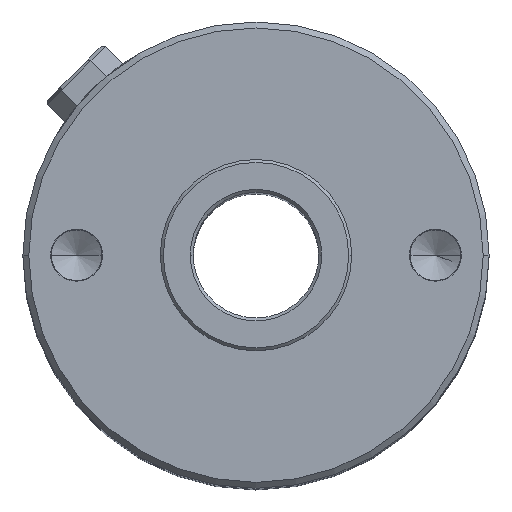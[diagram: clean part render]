
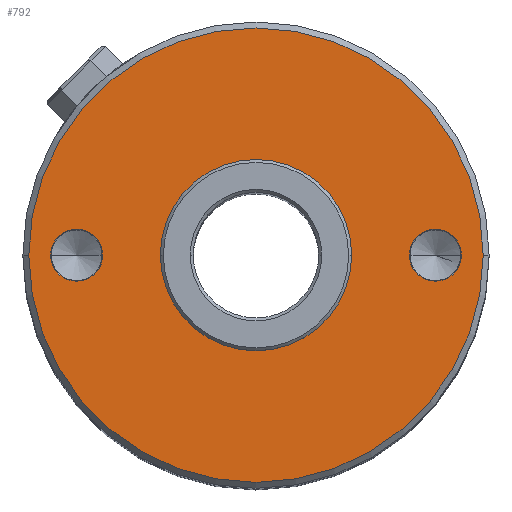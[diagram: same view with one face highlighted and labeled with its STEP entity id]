
A CAD part, top view. The second image highlights one B-rep face of the part: STEP entity #792.
In plain terms, the highlighted planar face has unit normal (0, 0, 1).
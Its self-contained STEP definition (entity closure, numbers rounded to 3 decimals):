
#16 = DIRECTION ( 'NONE',  ( 1., 0., 0. ) ) ;
#54 = CARTESIAN_POINT ( 'NONE',  ( -25.65, 0., 160. ) ) ;
#108 = DIRECTION ( 'NONE',  ( 1., 0., 0. ) ) ;
#124 = VERTEX_POINT ( 'NONE', #606 ) ;
#135 = VERTEX_POINT ( 'NONE', #54 ) ;
#142 = AXIS2_PLACEMENT_3D ( 'NONE', #1070, #2051, #898 ) ;
#146 = DIRECTION ( 'NONE',  ( 1., 0., 0. ) ) ;
#147 = VERTEX_POINT ( 'NONE', #687 ) ;
#148 = CIRCLE ( 'NONE', #142, 4.35 ) ;
#149 = CARTESIAN_POINT ( 'NONE',  ( -34.35, 0., 160. ) ) ;
#192 = DIRECTION ( 'NONE',  ( 0., 0., 1. ) ) ;
#209 = EDGE_CURVE ( 'NONE', #135, #2004, #1045, .T. ) ;
#223 = FACE_BOUND ( 'NONE', #1602, .T. ) ;
#306 = DIRECTION ( 'NONE',  ( 0., 0., -1. ) ) ;
#365 = CIRCLE ( 'NONE', #1212, 16. ) ;
#393 = VERTEX_POINT ( 'NONE', #1345 ) ;
#418 = EDGE_LOOP ( 'NONE', ( #1976, #506 ) ) ;
#461 = AXIS2_PLACEMENT_3D ( 'NONE', #945, #1134, #908 ) ;
#477 = DIRECTION ( 'NONE',  ( 0., 0., 1. ) ) ;
#479 = CIRCLE ( 'NONE', #605, 16. ) ;
#506 = ORIENTED_EDGE ( 'NONE', *, *, #1792, .T. ) ;
#557 = AXIS2_PLACEMENT_3D ( 'NONE', #956, #1940, #1292 ) ;
#564 = CARTESIAN_POINT ( 'NONE',  ( 0., 0., 160. ) ) ;
#605 = AXIS2_PLACEMENT_3D ( 'NONE', #564, #1545, #108 ) ;
#606 = CARTESIAN_POINT ( 'NONE',  ( 38., 0., 160. ) ) ;
#645 = DIRECTION ( 'NONE',  ( 1., 0., 0. ) ) ;
#687 = CARTESIAN_POINT ( 'NONE',  ( 16., 0., 160. ) ) ;
#701 = CIRCLE ( 'NONE', #557, 4.35 ) ;
#706 = CARTESIAN_POINT ( 'NONE',  ( -16., 0., 160. ) ) ;
#745 = EDGE_CURVE ( 'NONE', #393, #124, #1457, .T. ) ;
#759 = CARTESIAN_POINT ( 'NONE',  ( 0., 0., 160. ) ) ;
#788 = CIRCLE ( 'NONE', #1162, 4.35 ) ;
#792 = ADVANCED_FACE ( 'NONE', ( #2066, #223, #1068, #1598 ), #1496, .T. ) ;
#898 = DIRECTION ( 'NONE',  ( 1., 0., 0. ) ) ;
#907 = VERTEX_POINT ( 'NONE', #706 ) ;
#908 = DIRECTION ( 'NONE',  ( 1., 0., 0. ) ) ;
#909 = ORIENTED_EDGE ( 'NONE', *, *, #209, .T. ) ;
#945 = CARTESIAN_POINT ( 'NONE',  ( 0., 0., 160. ) ) ;
#956 = CARTESIAN_POINT ( 'NONE',  ( -30., 0., 160. ) ) ;
#969 = EDGE_LOOP ( 'NONE', ( #1252, #1618 ) ) ;
#996 = CARTESIAN_POINT ( 'NONE',  ( 0., 0., 160. ) ) ;
#1001 = AXIS2_PLACEMENT_3D ( 'NONE', #759, #192, #16 ) ;
#1026 = CARTESIAN_POINT ( 'NONE',  ( 34.35, 0., 160. ) ) ;
#1045 = CIRCLE ( 'NONE', #1047, 4.35 ) ;
#1047 = AXIS2_PLACEMENT_3D ( 'NONE', #1924, #306, #146 ) ;
#1050 = CARTESIAN_POINT ( 'NONE',  ( 25.65, 0., 160. ) ) ;
#1068 = FACE_BOUND ( 'NONE', #1721, .T. ) ;
#1070 = CARTESIAN_POINT ( 'NONE',  ( 30., 0., 160. ) ) ;
#1107 = VERTEX_POINT ( 'NONE', #1026 ) ;
#1133 = DIRECTION ( 'NONE',  ( 0., 0., -1. ) ) ;
#1134 = DIRECTION ( 'NONE',  ( 0., 0., 1. ) ) ;
#1162 = AXIS2_PLACEMENT_3D ( 'NONE', #1306, #1133, #645 ) ;
#1212 = AXIS2_PLACEMENT_3D ( 'NONE', #996, #1979, #1335 ) ;
#1252 = ORIENTED_EDGE ( 'NONE', *, *, #1256, .F. ) ;
#1256 = EDGE_CURVE ( 'NONE', #907, #147, #479, .T. ) ;
#1292 = DIRECTION ( 'NONE',  ( 1., 0., 0. ) ) ;
#1306 = CARTESIAN_POINT ( 'NONE',  ( 30., 0., 160. ) ) ;
#1335 = DIRECTION ( 'NONE',  ( 1., 0., 0. ) ) ;
#1345 = CARTESIAN_POINT ( 'NONE',  ( -38., 0., 160. ) ) ;
#1399 = ORIENTED_EDGE ( 'NONE', *, *, #1634, .T. ) ;
#1457 = CIRCLE ( 'NONE', #461, 38. ) ;
#1464 = CARTESIAN_POINT ( 'NONE',  ( 0., 0., 160. ) ) ;
#1496 = PLANE ( 'NONE',  #1001 ) ;
#1545 = DIRECTION ( 'NONE',  ( 0., 0., 1. ) ) ;
#1598 = FACE_BOUND ( 'NONE', #969, .T. ) ;
#1602 = EDGE_LOOP ( 'NONE', ( #2028, #2009 ) ) ;
#1613 = DIRECTION ( 'NONE',  ( 1., 0., 0. ) ) ;
#1618 = ORIENTED_EDGE ( 'NONE', *, *, #1711, .F. ) ;
#1620 = EDGE_CURVE ( 'NONE', #1885, #1107, #148, .T. ) ;
#1634 = EDGE_CURVE ( 'NONE', #2004, #135, #701, .T. ) ;
#1650 = AXIS2_PLACEMENT_3D ( 'NONE', #1464, #477, #1613 ) ;
#1711 = EDGE_CURVE ( 'NONE', #147, #907, #365, .T. ) ;
#1721 = EDGE_LOOP ( 'NONE', ( #909, #1399 ) ) ;
#1792 = EDGE_CURVE ( 'NONE', #124, #393, #2062, .T. ) ;
#1885 = VERTEX_POINT ( 'NONE', #1050 ) ;
#1924 = CARTESIAN_POINT ( 'NONE',  ( -30., 0., 160. ) ) ;
#1940 = DIRECTION ( 'NONE',  ( 0., 0., -1. ) ) ;
#1976 = ORIENTED_EDGE ( 'NONE', *, *, #745, .T. ) ;
#1979 = DIRECTION ( 'NONE',  ( 0., 0., 1. ) ) ;
#2004 = VERTEX_POINT ( 'NONE', #149 ) ;
#2009 = ORIENTED_EDGE ( 'NONE', *, *, #1620, .T. ) ;
#2028 = ORIENTED_EDGE ( 'NONE', *, *, #2069, .T. ) ;
#2051 = DIRECTION ( 'NONE',  ( 0., 0., -1. ) ) ;
#2062 = CIRCLE ( 'NONE', #1650, 38. ) ;
#2066 = FACE_OUTER_BOUND ( 'NONE', #418, .T. ) ;
#2069 = EDGE_CURVE ( 'NONE', #1107, #1885, #788, .T. ) ;
